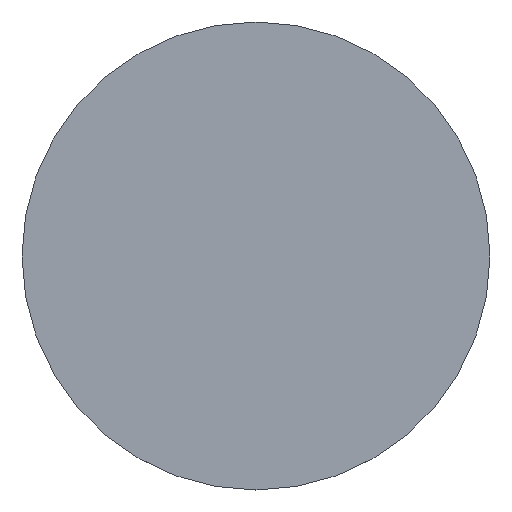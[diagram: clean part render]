
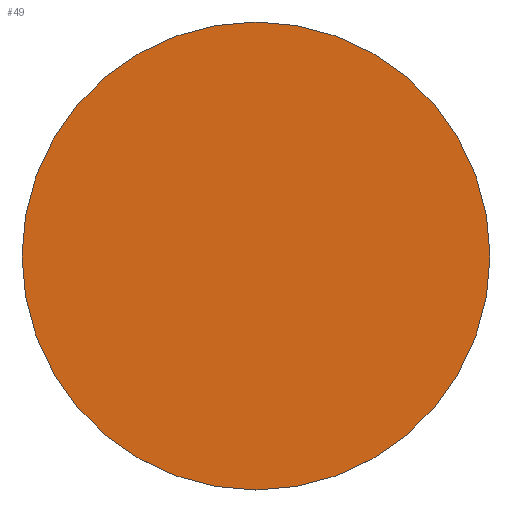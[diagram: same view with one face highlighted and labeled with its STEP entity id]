
A CAD part, top view. The second image highlights one B-rep face of the part: STEP entity #49.
In plain terms, the highlighted planar face has unit normal (0, 0, 1).
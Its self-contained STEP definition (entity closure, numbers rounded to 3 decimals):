
#2=CARTESIAN_POINT('',(0.,0.,0.005));
#4=CARTESIAN_POINT('',(0.35,0.,0.005));
#6=VERTEX_POINT('',#4);
#10=DIRECTION('',(0.,0.,1.));
#12=DIRECTION('',(1.,0.,0.));
#15=AXIS2_PLACEMENT_3D('',#2,#10,#12);
#21=CIRCLE('',#15,0.35);
#25=EDGE_CURVE('',#6,#6,#21,.T.);
#45=ORIENTED_EDGE('',*,*,#25,.T.);
#46=EDGE_LOOP('',(#45));
#47=FACE_OUTER_BOUND('',#46,.T.);
#48=PLANE('',#15);
#49=ADVANCED_FACE('',(#47),#48,.T.);
